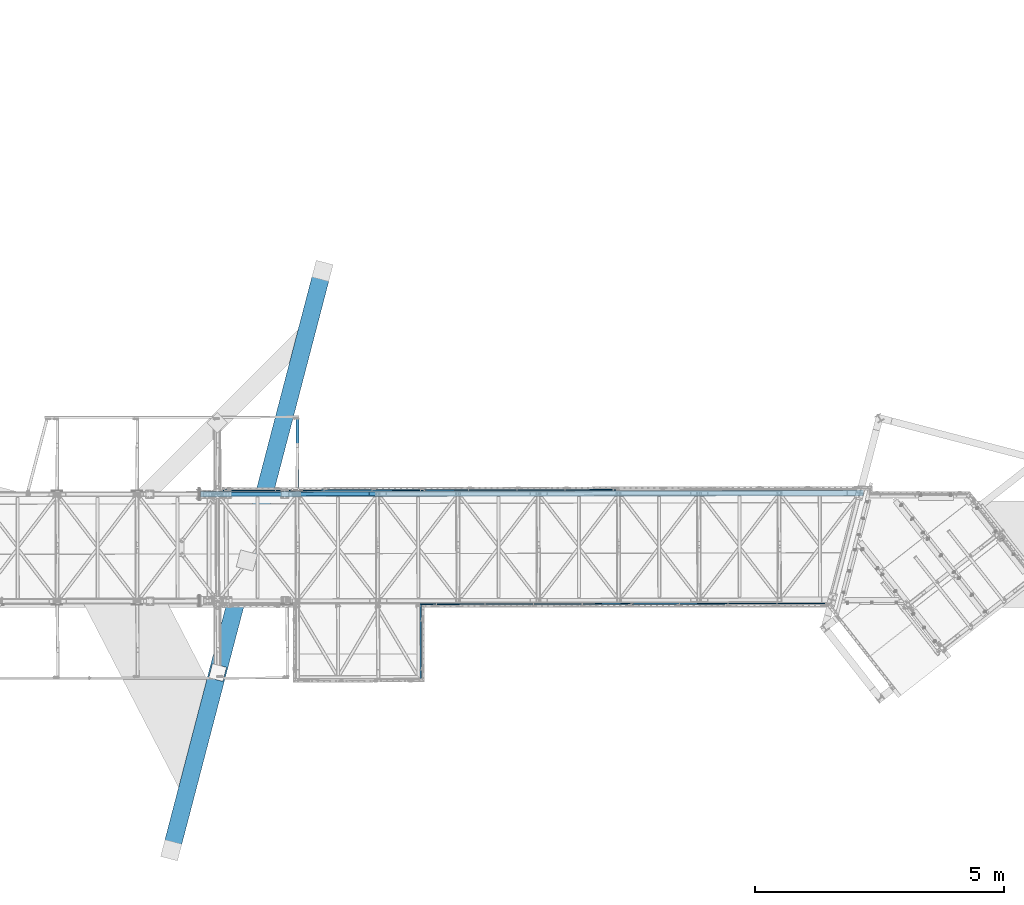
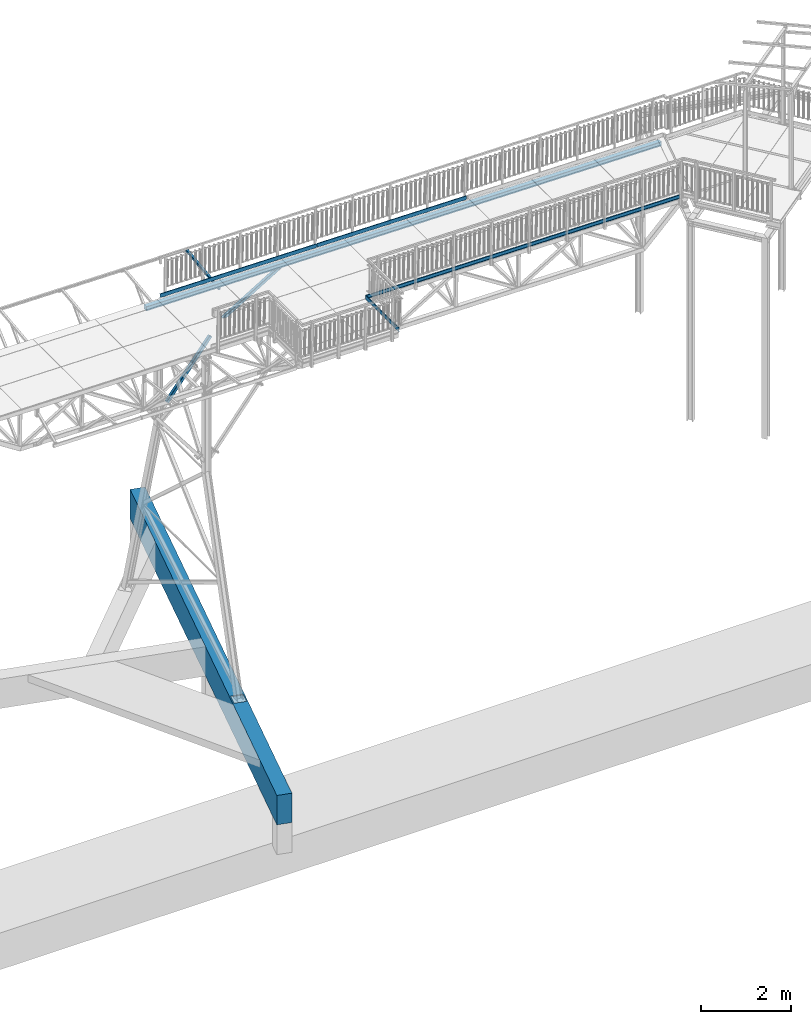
# One storey, part 17 of 169: 8 beams, 2 members, 10 elements without a shape of their own.
"""IFC2X3 building model written with IfcOpenShell, lengths in millimetres."""

from ifc_helpers import new_model, si_unit, frame, origin_with_axes, origin_2d_with_axis, place, context, subcontext, project, spatial, polyline, rectangle, hollow_rectangle, u_section, outline, extrude, boolean, clip, halfspace, material, type_object, element, aggregate, save


model = new_model("IFC2X3")

# Units and contexts
model_context = context("Model", 3, precision=1e-05, world=origin_with_axes())
body_context = subcontext(model_context, "Body", "Model", "MODEL_VIEW")
ifc_project = project(units=[si_unit("LENGTHUNIT", "METRE", prefix="MILLI"), si_unit("AREAUNIT", "SQUARE_METRE"), si_unit("VOLUMEUNIT", "CUBIC_METRE"), si_unit("MASSUNIT", "GRAM", prefix="KILO"), si_unit("TIMEUNIT", "SECOND"), si_unit("PLANEANGLEUNIT", "RADIAN"), si_unit("SOLIDANGLEUNIT", "STERADIAN"), si_unit("THERMODYNAMICTEMPERATUREUNIT", "DEGREE_CELSIUS"), si_unit("LUMINOUSINTENSITYUNIT", "LUMEN")], contexts=[model_context])

# Site, building, storey
site_placement = place(None, origin_with_axes())
site = spatial("IfcSite", under=ifc_project, at=site_placement, Name="Undefined", CompositionType="ELEMENT")
building_placement = place(site_placement, origin_with_axes())
building = spatial("IfcBuilding", under=site, at=building_placement, Name="Undefined", CompositionType="ELEMENT")
storey_placement = place(building_placement, origin_with_axes())
storey = spatial("IfcBuildingStorey", under=building, at=storey_placement, Name="Undefined", CompositionType="ELEMENT", Elevation=0.0)

# Assembly, beam
assembly_1_placement = place(storey_placement, origin_with_axes())
assembly_1 = element("IfcElementAssembly", 1, at=assembly_1_placement, inside=storey, Name="Steel Assembly", AssemblyPlace="NOTDEFINED", PredefinedType="RIGID_FRAME")
ifc_material_1 = material(Name="STEEL/S235JR")
beam_type_1 = type_object("IfcBeamType", Name="C100*20*2", PredefinedType="NOTDEFINED")
beam_1_placement = place(assembly_1_placement, frame((14408.7560353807, 56.884217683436, 13911.0898339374), z_axis=(0.012713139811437, 2.3750999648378e-05, 0.999919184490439), x_axis=(0.999917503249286, 0.00182967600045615, -0.0127137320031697)))
beam_1 = element("IfcBeam", 2, at=beam_1_placement, type_object=beam_type_1, material=ifc_material_1, Name="KICK_PLATE", ObjectType="C100*20*2", context=body_context, shape_type="SweptSolid", body=[
    extrude(u_section(Depth=100.0, FlangeWidth=20.0, WebThickness=2.0, FlangeThickness=2.0, FilletRadius=3.0, at=origin_2d_with_axis()), frame((3895.00000239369, -9.70214499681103e-15, 0.0), z_axis=(-1.0, -3.46944695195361e-18, -1.38777878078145e-17), x_axis=(1.73472347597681e-18, -1.0, 0.0)), (0.0, 0.0, 1.0), 3895.0),
])
aggregate(assembly_1, [beam_1])

assembly_2_placement = place(storey_placement, origin_with_axes())
assembly_2 = element("IfcElementAssembly", 3, at=assembly_2_placement, inside=storey, Name="Steel Assembly", AssemblyPlace="NOTDEFINED", PredefinedType="RIGID_FRAME")
beam_2_placement = place(assembly_2_placement, frame((10197.1820355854, -1435.97232463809, 13964.6719500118), z_axis=(0.012713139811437, 2.3750999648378e-05, 0.999919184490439), x_axis=(-0.0018648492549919, 0.999998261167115, -4.2996762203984e-08)))
beam_2 = element("IfcBeam", 4, at=beam_2_placement, type_object=beam_type_1, material=ifc_material_1, Name="KICK_PLATE", ObjectType="C100*20*2", context=body_context, shape_type="SweptSolid", body=[
    extrude(u_section(Depth=100.0, FlangeWidth=20.0, WebThickness=2.0, FlangeThickness=2.0, FilletRadius=3.0, at=origin_2d_with_axis()), frame((1489.9999999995, 1.38994933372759e-16, -2.16919843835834e-18), z_axis=(-1.0, -3.46944695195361e-18, -1.38777878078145e-17), x_axis=(1.73472347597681e-18, -1.0, 0.0)), (0.0, 0.0, 1.0), 1490.0),
])
aggregate(assembly_2, [beam_2])

assembly_3_placement = place(storey_placement, origin_with_axes())
assembly_3 = element("IfcElementAssembly", 5, at=assembly_3_placement, inside=storey, Name="Steel Assembly", AssemblyPlace="NOTDEFINED", PredefinedType="RIGID_FRAME")
beam_3_placement = place(assembly_3_placement, frame((10184.3104779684, 49.0062521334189, 13964.8003286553), z_axis=(0.012713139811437, 2.3750999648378e-05, 0.999919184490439), x_axis=(0.9999174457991, 0.00186469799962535, -0.0127131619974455)))
beam_3 = element("IfcBeam", 6, at=beam_3_placement, type_object=beam_type_1, material=ifc_material_1, Name="KICK_PLATE", ObjectType="C100*20*2", context=body_context, shape_type="CSG", body=[
    boolean("DIFFERENCE", extrude(u_section(Depth=100.0, FlangeWidth=20.0, WebThickness=2.0, FlangeThickness=2.0, FilletRadius=3.0, at=origin_2d_with_axis()), frame((4219.9999999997, 1.09989819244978e-14, 1.46410661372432e-14), z_axis=(-1.0, -3.46944695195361e-18, -1.38777878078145e-17), x_axis=(1.73472347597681e-18, -1.0, 0.0)), (0.0, 0.0, 1.0), 4220.0), extrude(outline(polyline([(0.0, 0.0), (24.9999999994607, -1.85351467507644e-09), (24.9999999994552, 17.9999999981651), (-0.102804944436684, 17.9999999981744), (0.0, 0.0)])), frame((0.102804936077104, -9.99999999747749, -53.0000000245), z_axis=(0.0, 0.0, 1.0), x_axis=(1.0, 0.0, 0.0)), (0.0, 0.0, 1.0), 106.0)),
])
aggregate(assembly_3, [beam_3])

assembly_4_placement = place(storey_placement, origin_with_axes())
assembly_4 = element("IfcElementAssembly", 7, at=assembly_4_placement, inside=storey, Name="Steel Assembly", AssemblyPlace="NOTDEFINED", PredefinedType="RIGID_FRAME")
beam_4_placement = place(assembly_4_placement, frame((14111.064782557, 2346.3330499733, 13914.8203485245), z_axis=(0.012713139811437, 2.3750999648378e-05, 0.999919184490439), x_axis=(-0.999917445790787, -0.00186469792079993, 0.0127131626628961)))
beam_4 = element("IfcBeam", 8, at=beam_4_placement, type_object=beam_type_1, material=ifc_material_1, Name="KICK_PLATE", ObjectType="C100*20*2", context=body_context, shape_type="SweptSolid", body=[
    extrude(u_section(Depth=100.0, FlangeWidth=20.0, WebThickness=2.0, FlangeThickness=2.0, FilletRadius=3.0, at=origin_2d_with_axis()), frame((3862.00000000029, -4.54238355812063e-13, 0.0), z_axis=(-1.0, -3.46944695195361e-18, -1.38777878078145e-17), x_axis=(1.73472347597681e-18, -1.0, 0.0)), (0.0, 0.0, 1.0), 3862.0),
])
aggregate(assembly_4, [beam_4])

assembly_5_placement = place(storey_placement, origin_with_axes())
assembly_5 = element("IfcElementAssembly", 9, at=assembly_5_placement, inside=storey, Name="Steel Assembly", AssemblyPlace="NOTDEFINED", PredefinedType="RIGID_FRAME")
beam_5_placement = place(assembly_5_placement, frame((10244.4154852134, 2339.12232150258, 13963.9817459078), z_axis=(0.012713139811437, 2.3750999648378e-05, 0.999919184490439), x_axis=(-0.999917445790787, -0.00186469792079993, 0.0127131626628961)))
beam_5 = element("IfcBeam", 10, at=beam_5_placement, type_object=beam_type_1, material=ifc_material_1, Name="KICK_PLATE", ObjectType="C100*20*2", context=body_context, shape_type="SweptSolid", body=[
    extrude(u_section(Depth=100.0, FlangeWidth=20.0, WebThickness=2.0, FlangeThickness=2.0, FilletRadius=3.0, at=origin_2d_with_axis()), frame((4041.99999999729, 5.54157013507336e-16, -7.01175228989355e-15), z_axis=(-1.0, -3.46944695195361e-18, -1.38777878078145e-17), x_axis=(1.73472347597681e-18, -1.0, 0.0)), (0.0, 0.0, 1.0), 4042.0),
])
aggregate(assembly_5, [beam_5])

assembly_6_placement = place(storey_placement, origin_with_axes())
assembly_6 = element("IfcElementAssembly", 11, at=assembly_6_placement, inside=storey, Name="Steel Assembly", AssemblyPlace="NOTDEFINED", PredefinedType="RIGID_FRAME")
ifc_material_2 = material(Name="STEEL/S355")
beam_type_2 = type_object("IfcBeamType", Name="SHS60*3", PredefinedType="NOTDEFINED")
beam_6_placement = place(assembly_6_placement, frame((7726.40293153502, 2302.47480841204, 13681.1865826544), z_axis=(-0.999917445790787, -0.00186469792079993, 0.0127131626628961), x_axis=(-0.000356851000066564, 0.993062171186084, 0.117589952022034)))
beam_6 = element("IfcBeam", 12, at=beam_6_placement, type_object=beam_type_2, material=ifc_material_2, Name="BEAM", ObjectType="SHS60*3", context=body_context, shape_type="Clipping", body=[
    clip(clip(extrude(hollow_rectangle(XDim=60.0, YDim=60.0, WallThickness=3.0, InnerFilletRadius=3.0, OuterFilletRadius=6.0, at=origin_2d_with_axis()), frame((1470.09918379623, 3.65838053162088e-12, 0.0), z_axis=(-1.0, -3.46944695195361e-18, -1.38777878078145e-17), x_axis=(1.73472347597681e-18, -1.0, 0.0)), (0.0, 0.0, 1.0), 1470.97), halfspace(frame((1470.09918307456, 30.0000000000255, 4.54747350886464e-13), z_axis=(-1.0, -3.46944695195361e-18, -1.38777878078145e-17), x_axis=(0.0, 0.0, 1.0)), True)), halfspace(frame((10.0213621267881, -1.63709046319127e-11, -29.9999999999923), z_axis=(0.99306110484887, 0.117599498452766, -6.01535472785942e-10), x_axis=(0.117599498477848, -0.9930611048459, -1.69175905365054e-09)), True)),
])
aggregate(assembly_6, [beam_6])

assembly_7_placement = place(storey_placement, origin_with_axes())
assembly_7 = element("IfcElementAssembly", 13, at=assembly_7_placement, inside=storey, Name="Steel Assembly", AssemblyPlace="NOTDEFINED", PredefinedType="RIGID_FRAME")
beam_type_3 = type_object("IfcBeamType", Name="RHS120*4", PredefinedType="NOTDEFINED")
beam_7_placement = place(assembly_7_placement, frame((5761.89912779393, 2255.76296151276, 13880.9638744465), z_axis=(-0.0018648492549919, 0.999998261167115, -4.2996762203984e-08), x_axis=(0.9999174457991, 0.00186469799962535, -0.0127131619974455)))
beam_7 = element("IfcBeam", 14, at=beam_7_placement, type_object=beam_type_3, material=ifc_material_2, Name="BEAM", ObjectType="RHS120*4", context=body_context, shape_type="Clipping", body=[
    clip(extrude(hollow_rectangle(XDim=120.0, YDim=120.0, WallThickness=4.0, InnerFilletRadius=4.0, OuterFilletRadius=8.0, at=origin_2d_with_axis()), frame((13306.5000003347, 2.3083097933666e-14, -3.97779018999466e-15), z_axis=(-1.0, -3.46944695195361e-18, -1.38777878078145e-17), x_axis=(1.73472347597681e-18, -1.0, 0.0)), (0.0, 0.0, 1.0), 13286.0), halfspace(frame((20.5000009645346, -4.30084528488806e-05, -999.999999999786), z_axis=(1.0, 0.0, 0.0), x_axis=(1.73472347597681e-18, -1.0, 0.0)), True)),
])
aggregate(assembly_7, [beam_7])

# Assembly, member
assembly_8_placement = place(storey_placement, origin_with_axes())
assembly_8 = element("IfcElementAssembly", 15, at=assembly_8_placement, inside=storey, Name="Steel Assembly", AssemblyPlace="NOTDEFINED", PredefinedType="RIGID_FRAME")
member_type = type_object("IfcMemberType", Name="K80/4", PredefinedType="NOTDEFINED")
member_1_placement = place(assembly_8_placement, frame((6330.40357748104, 2256.82315467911, 11111.4446167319), z_axis=(-0.784458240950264, -0.00146288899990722, 0.620179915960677), x_axis=(0.620178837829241, 0.00115653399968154, 0.784459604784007)))
member_1 = element("IfcMember", 16, at=member_1_placement, type_object=member_type, material=ifc_material_2, Name="BEAM", ObjectType="K80/4", context=body_context, shape_type="Clipping", body=[
    clip(clip(extrude(hollow_rectangle(XDim=80.0, YDim=80.0, WallThickness=4.0, InnerFilletRadius=4.0, OuterFilletRadius=8.0, at=origin_2d_with_axis()), frame((1813.24287007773, 1.93082608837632e-16, -9.09494701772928e-13), z_axis=(-1.0, -3.46944695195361e-18, -1.38777878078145e-17), x_axis=(1.73472347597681e-18, -1.0, 0.0)), (0.0, 0.0, 1.0), 1796.74), halfspace(frame((1813.24287009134, 9.59232693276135e-12, -40.0000000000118), z_axis=(-1.0, -3.46944695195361e-18, -1.38777878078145e-17), x_axis=(0.0, 1.0, 0.0)), True)), halfspace(frame((16.5000000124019, -1.18376419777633e-11, -39.9999999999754), z_axis=(1.0, 0.0, 0.0), x_axis=(1.73472347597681e-18, -1.0, 0.0)), True)),
])
aggregate(assembly_8, [member_1])

assembly_9_placement = place(storey_placement, origin_with_axes())
assembly_9 = element("IfcElementAssembly", 17, at=assembly_9_placement, inside=storey, Name="Steel Assembly", AssemblyPlace="NOTDEFINED", PredefinedType="RIGID_FRAME")
member_2_placement = place(assembly_9_placement, frame((7715.9921345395, 2259.40711202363, 12856.0381884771), z_axis=(-0.516782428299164, -0.000963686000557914, 0.856116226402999), x_axis=(0.856114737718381, 0.00159654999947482, 0.516783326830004)))
member_2 = element("IfcMember", 18, at=member_2_placement, type_object=member_type, material=ifc_material_2, Name="BEAM", ObjectType="K80/4", context=body_context, shape_type="CSG", body=[
    boolean("DIFFERENCE", boolean("DIFFERENCE", boolean("DIFFERENCE", boolean("DIFFERENCE", extrude(hollow_rectangle(XDim=80.0, YDim=80.0, WallThickness=4.0, InnerFilletRadius=4.0, OuterFilletRadius=8.0, at=origin_2d_with_axis()), frame((1895.28365458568, 2.8368149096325e-14, 0.0), z_axis=(-1.0, -3.46944695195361e-18, -1.38777878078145e-17), x_axis=(1.73472347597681e-18, -1.0, 0.0)), (0.0, 0.0, 1.0), 1895.28), extrude(rectangle(XDim=122.0, YDim=122.0, at=origin_2d_with_axis()), frame((3629.06675549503, -0.000113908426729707, -1076.88375412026), z_axis=(-0.849477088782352, -3.93457825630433e-11, 0.527625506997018), x_axis=(0.527625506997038, -2.13486959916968e-10, 0.849477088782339)), (0.0, 0.0, 1.0), 4082.0)), extrude(rectangle(XDim=82.0, YDim=82.0, at=origin_2d_with_axis()), frame((2982.71976667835, -3.53661638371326e-07, 1750.77218569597), z_axis=(-0.527625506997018, 2.00772915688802e-10, -0.849477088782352), x_axis=(1.73472347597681e-18, -1.0, 0.0)), (0.0, 0.0, 1.0), 4122.0)), extrude(rectangle(XDim=82.0, YDim=82.0, at=origin_2d_with_axis()), frame((1087.43622890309, -6.76905148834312e-07, 1750.7723728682), z_axis=(-0.527625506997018, 2.00772915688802e-10, -0.849477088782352), x_axis=(1.73472347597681e-18, -1.0, 0.0)), (0.0, 0.0, 1.0), 4122.0)), extrude(rectangle(XDim=122.0, YDim=122.0, at=origin_2d_with_axis()), frame((1733.61000419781, -2.8444828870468e-06, -1076.7762420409), z_axis=(-0.849477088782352, -3.93457825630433e-11, 0.527625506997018), x_axis=(-0.527625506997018, 2.00772915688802e-10, -0.849477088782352)), (0.0, 0.0, 1.0), 4081.59)),
])
aggregate(assembly_9, [member_2])

# Assembly, beam
assembly_10_placement = place(storey_placement, origin_with_axes())
assembly_10 = element("IfcElementAssembly", 19, at=assembly_10_placement, inside=storey, Name="BEAM", AssemblyPlace="NOTDEFINED", PredefinedType="REINFORCEMENT_UNIT")
ifc_material_3 = material(Name="CONCRETE/C45/55")
beam_type_4 = type_object("IfcBeamType", Name="800*350", PredefinedType="NOTDEFINED")
beam_8_placement = place(assembly_10_placement, frame((5150.80857705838, -5048.69650599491, 4880.41805553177), z_axis=(0.0, 0.0, 1.0), x_axis=(0.252628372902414, 0.967563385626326, 0.0)))
beam_8 = element("IfcBeam", 20, at=beam_8_placement, type_object=beam_type_4, material=ifc_material_3, Name="BEAM", ObjectType="800*350", context=body_context, shape_type="CSG", body=[
    boolean("DIFFERENCE", extrude(rectangle(XDim=350.0, YDim=800.0, at=origin_2d_with_axis()), frame((12350.0000000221, 0.0, 9.09494701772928e-13), z_axis=(-1.0, -3.46944695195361e-18, -1.38777878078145e-17), x_axis=(1.73472347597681e-18, -1.0, 0.0)), (0.0, 0.0, 1.0), 12350.0), extrude(outline(polyline([(0.0, 0.0), (289.999999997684, -7.36690708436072e-11), (289.999999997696, 290.000000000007), (-3.73734110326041e-09, 289.999999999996), (0.0, 0.0)])), frame((3711.32016090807, 144.031871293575, 379.999537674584), z_axis=(0.0, 0.0, 1.0), x_axis=(1.73472347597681e-18, -1.0, 0.0)), (0.0, 0.0, 1.0), 20.0)),
])
aggregate(assembly_10, [beam_8])

save(model, "model.ifc")
